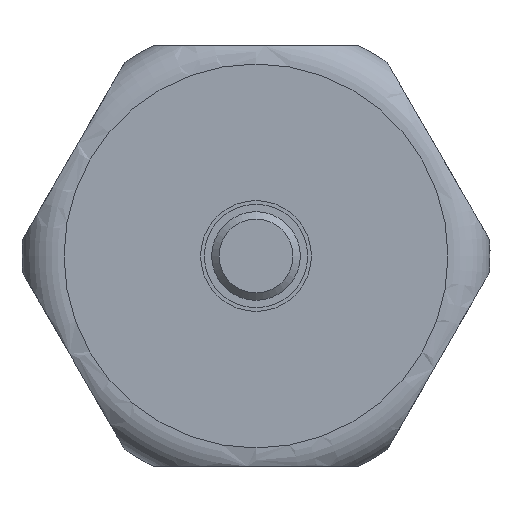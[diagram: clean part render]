
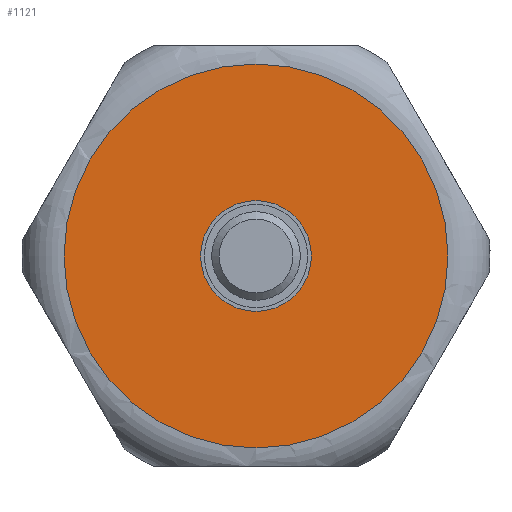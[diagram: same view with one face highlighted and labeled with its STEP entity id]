
A CAD part, left-side view. The second image highlights one B-rep face of the part: STEP entity #1121.
In plain terms, the highlighted planar face has unit normal (-1, 0, 0).
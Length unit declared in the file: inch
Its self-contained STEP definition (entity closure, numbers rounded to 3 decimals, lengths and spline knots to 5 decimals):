
#48=FACE_BOUND('',#192,.T.);
#73=PLANE('',#1281);
#123=FACE_OUTER_BOUND('',#191,.T.);
#191=EDGE_LOOP('',(#898,#899));
#192=EDGE_LOOP('',(#900,#901));
#339=CIRCLE('',#1237,0.14764);
#340=CIRCLE('',#1238,0.14764);
#366=CIRCLE('',#1282,0.51181);
#367=CIRCLE('',#1283,0.51181);
#444=VERTEX_POINT('',#1841);
#445=VERTEX_POINT('',#1842);
#484=VERTEX_POINT('',#2102);
#485=VERTEX_POINT('',#2103);
#575=EDGE_CURVE('',#444,#445,#339,.T.);
#576=EDGE_CURVE('',#445,#444,#340,.T.);
#632=EDGE_CURVE('',#484,#485,#366,.T.);
#633=EDGE_CURVE('',#485,#484,#367,.T.);
#898=ORIENTED_EDGE('',*,*,#632,.F.);
#899=ORIENTED_EDGE('',*,*,#633,.F.);
#900=ORIENTED_EDGE('',*,*,#575,.T.);
#901=ORIENTED_EDGE('',*,*,#576,.T.);
#1121=ADVANCED_FACE('',(#123,#48),#73,.T.);
#1237=AXIS2_PLACEMENT_3D('',#1843,#1496,#1497);
#1238=AXIS2_PLACEMENT_3D('',#1844,#1498,#1499);
#1281=AXIS2_PLACEMENT_3D('',#2101,#1600,#1601);
#1282=AXIS2_PLACEMENT_3D('',#2104,#1602,#1603);
#1283=AXIS2_PLACEMENT_3D('',#2105,#1604,#1605);
#1496=DIRECTION('center_axis',(1.,0.,0.));
#1497=DIRECTION('ref_axis',(0.,-0.866,0.5));
#1498=DIRECTION('center_axis',(1.,0.,0.));
#1499=DIRECTION('ref_axis',(0.,-0.866,0.5));
#1600=DIRECTION('center_axis',(-1.,0.,0.));
#1601=DIRECTION('ref_axis',(0.,-0.866,0.5));
#1602=DIRECTION('center_axis',(1.,0.,0.));
#1603=DIRECTION('ref_axis',(0.,0.866,-0.5));
#1604=DIRECTION('center_axis',(1.,0.,0.));
#1605=DIRECTION('ref_axis',(0.,0.866,-0.5));
#1841=CARTESIAN_POINT('',(-2.66747,-0.02656,-0.27052));
#1842=CARTESIAN_POINT('',(-2.66747,0.22916,-0.41816));
#1843=CARTESIAN_POINT('Origin',(-2.66747,0.1013,-0.34434));
#1844=CARTESIAN_POINT('Origin',(-2.66747,0.1013,-0.34434));
#2101=CARTESIAN_POINT('Origin',(-2.66747,0.54454,-0.60025));
#2102=CARTESIAN_POINT('',(-2.66747,0.54454,-0.60025));
#2103=CARTESIAN_POINT('',(-2.66747,-0.34194,-0.08844));
#2104=CARTESIAN_POINT('Origin',(-2.66747,0.1013,-0.34434));
#2105=CARTESIAN_POINT('Origin',(-2.66747,0.1013,-0.34434));
